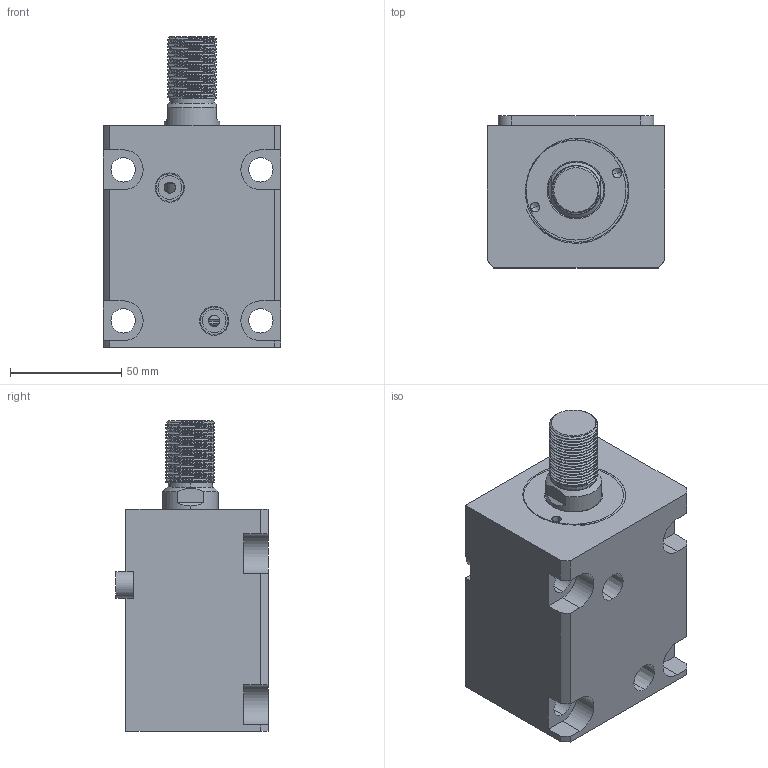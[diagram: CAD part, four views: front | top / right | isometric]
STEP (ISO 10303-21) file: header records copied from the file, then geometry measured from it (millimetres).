
FILE_DESCRIPTION (( 'STEP AP214' ), '1' );
FILE_NAME ('chtb-la40x45w_asm.STEP', '2018-06-02T07:34:29', ( 'Windows' ), ( 'Microsoft' ), 'SwSTEP 2.0', 'SolidWorks 2015', '' );
FILE_SCHEMA (( 'AUTOMOTIVE_DESIGN' ));
Length unit declared in the file: millimetre
Products named in the file (5): CHTB-SD40QG; CHTB-LA40PJ; CHTB-SD40X45WHSG; CHTB-LA40X45NBT; chtb-la40x45w_asm
Assembly tree (4 placements, depth 2):
  chtb-la40x45w_asm
    CHTB-LA40X45NBT
    CHTB-SD40X45WHSG
    CHTB-LA40PJ
    CHTB-SD40QG
Bounding box: 80 x 68.5 x 140 mm (x, y, z)
Volume: 455789.6 mm3; surface area: 89131.5 mm2
Topology: 4 solids, 5 shells, 205 faces, 559 edges, 373 vertices
Faces by surface type: cylinder 111, plane 52, bspline 16, cone 14, torus 12
Entity records: 13775 total; most frequent: CARTESIAN_POINT 8706, ORIENTED_EDGE 1106, DIRECTION 926, EDGE_CURVE 553, VERTEX_POINT 373, AXIS2_PLACEMENT_3D 363, EDGE_LOOP 234, FACE_OUTER_BOUND 205
